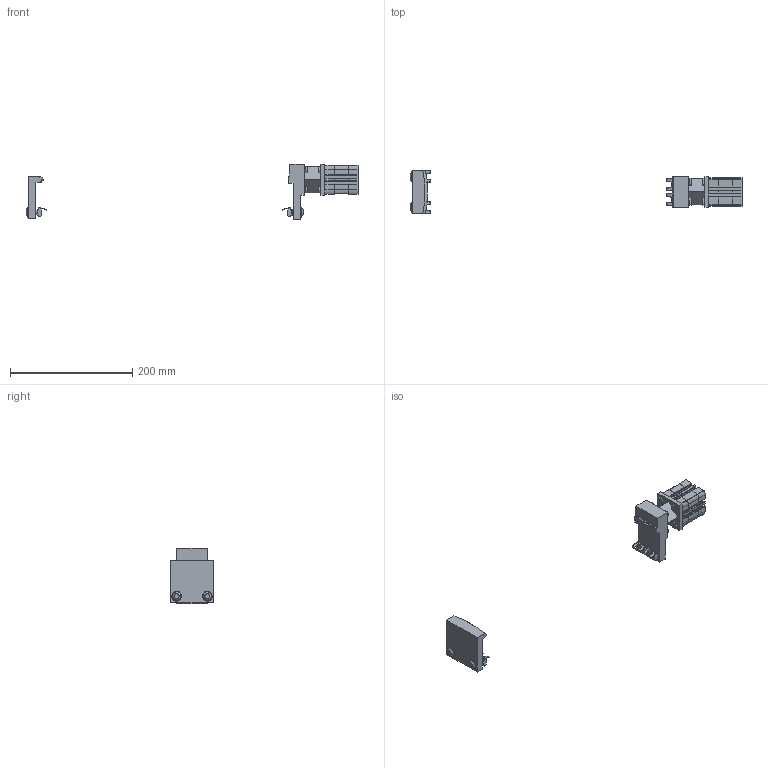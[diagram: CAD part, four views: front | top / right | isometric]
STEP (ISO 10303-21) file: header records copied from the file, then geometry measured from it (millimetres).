
FILE_DESCRIPTION(/* description */ (''),/* implementation_level */ '2;1');
FILE_NAME(/* name */ 'C:\Marketing\01_Versamove-SPU_STEP-Dateien-Homepage\Versamove plus\PE-2010-Seitlich_B400.stp',/* time_stamp */ '2017-02-03T11:32:45+01:00',/* author */ ('herbert.engels'),/* organization */ (''),/* preprocessor_version */ 'ST-DEVELOPER v15.6',/* originating_system */ 'Autodesk Inventor 2015',/* authorisation */ '');
FILE_SCHEMA (('CONFIG_CONTROL_DESIGN'));
Length unit declared in the file: millimetre
Products named in the file (1): PE-2010-Seitlich
Bounding box: 542.3 x 70 x 90 mm (x, y, z)
Volume: 295001 mm3; surface area: 63682.6 mm2
Topology: 6 solids, 6 shells, 684 faces, 1780 edges, 1161 vertices
Faces by surface type: plane 414, cylinder 217, cone 49, bspline 4
Full cylindrical faces by diameter (mm): 0.2 x12, 5.459 x8, 6 x1, 8 x5, 8.7 x8, 10 x2, 16.2 x4
Entity records: 21851 total; most frequent: CARTESIAN_POINT 4315, ORIENTED_EDGE 3464, DIRECTION 3424, EDGE_CURVE 1728, VERTEX_POINT 1150, AXIS2_PLACEMENT_3D 1147, LINE 1130, VECTOR 1130
